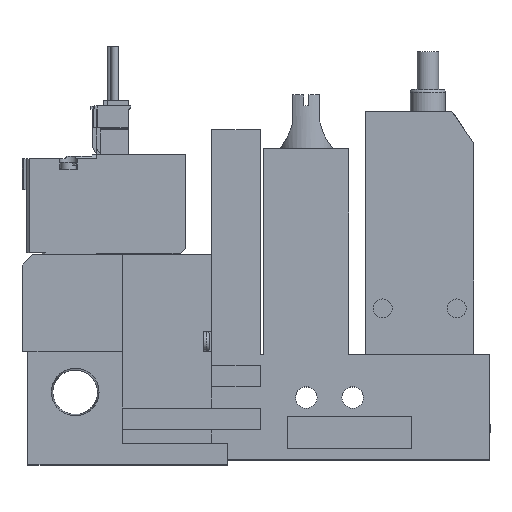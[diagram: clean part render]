
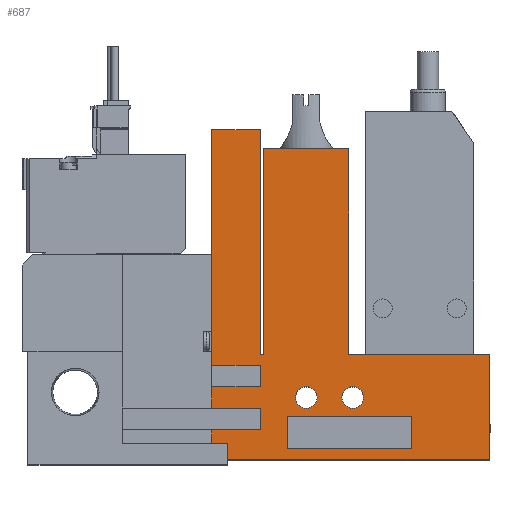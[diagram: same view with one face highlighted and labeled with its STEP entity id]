
A CAD part, top view. The second image highlights one B-rep face of the part: STEP entity #687.
In plain terms, the highlighted planar face has unit normal (0, 0, 1).
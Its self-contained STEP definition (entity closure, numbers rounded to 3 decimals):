
#687=ADVANCED_FACE('',(#1472,#1473,#1474,#1475),#1476,.T.);
#1472=FACE_OUTER_BOUND('',#2401,.T.);
#1473=FACE_BOUND('',#2402,.T.);
#1474=FACE_BOUND('',#2403,.T.);
#1475=FACE_BOUND('',#2404,.T.);
#1476=PLANE('',#2405);
#2401=EDGE_LOOP('',(#5280,#5281,#5282,#5283,#5284,#5285,#5286,#5287,#5288,#5289,#5290,#5291,#5292,#5293,#5294,#5295,#5296,#5297));
#2402=EDGE_LOOP('',(#5298,#5299,#5300,#5301));
#2403=EDGE_LOOP('',(#5302));
#2404=EDGE_LOOP('',(#5303));
#2405=AXIS2_PLACEMENT_3D('',#5304,#5305,#5306);
#5280=ORIENTED_EDGE('',*,*,#6691,.T.);
#5281=ORIENTED_EDGE('',*,*,#6835,.T.);
#5282=ORIENTED_EDGE('',*,*,#6819,.T.);
#5283=ORIENTED_EDGE('',*,*,#6719,.T.);
#5284=ORIENTED_EDGE('',*,*,#6748,.T.);
#5285=ORIENTED_EDGE('',*,*,#6836,.T.);
#5286=ORIENTED_EDGE('',*,*,#6837,.T.);
#5287=ORIENTED_EDGE('',*,*,#6838,.T.);
#5288=ORIENTED_EDGE('',*,*,#6703,.T.);
#5289=ORIENTED_EDGE('',*,*,#6734,.T.);
#5290=ORIENTED_EDGE('',*,*,#6826,.T.);
#5291=ORIENTED_EDGE('',*,*,#6758,.T.);
#5292=ORIENTED_EDGE('',*,*,#6839,.T.);
#5293=ORIENTED_EDGE('',*,*,#6840,.T.);
#5294=ORIENTED_EDGE('',*,*,#6821,.T.);
#5295=ORIENTED_EDGE('',*,*,#6793,.T.);
#5296=ORIENTED_EDGE('',*,*,#6675,.T.);
#5297=ORIENTED_EDGE('',*,*,#6725,.T.);
#5298=ORIENTED_EDGE('',*,*,#6841,.T.);
#5299=ORIENTED_EDGE('',*,*,#6744,.T.);
#5300=ORIENTED_EDGE('',*,*,#6816,.T.);
#5301=ORIENTED_EDGE('',*,*,#6713,.T.);
#5302=ORIENTED_EDGE('',*,*,#6705,.T.);
#5303=ORIENTED_EDGE('',*,*,#6750,.T.);
#5304=CARTESIAN_POINT('',(0.0,0.0,10.0));
#5305=DIRECTION('',(0.0,0.0,1.0));
#5306=DIRECTION('',(1.0,0.0,0.0));
#6675=EDGE_CURVE('',#8214,#8212,#8215,.T.);
#6691=EDGE_CURVE('',#8246,#8244,#8247,.T.);
#6703=EDGE_CURVE('',#8263,#8267,#8269,.T.);
#6705=EDGE_CURVE('',#8272,#8272,#8273,.T.);
#6713=EDGE_CURVE('',#8282,#8287,#8289,.T.);
#6719=EDGE_CURVE('',#8292,#8299,#8301,.T.);
#6725=EDGE_CURVE('',#8212,#8246,#8310,.T.);
#6734=EDGE_CURVE('',#8267,#8325,#8327,.T.);
#6744=EDGE_CURVE('',#8337,#8342,#8344,.T.);
#6748=EDGE_CURVE('',#8299,#8349,#8351,.T.);
#6750=EDGE_CURVE('',#8354,#8354,#8355,.T.);
#6758=EDGE_CURVE('',#8370,#8368,#8371,.T.);
#6793=EDGE_CURVE('',#8425,#8214,#8426,.T.);
#6816=EDGE_CURVE('',#8342,#8282,#8460,.T.);
#6819=EDGE_CURVE('',#8461,#8292,#8465,.T.);
#6821=EDGE_CURVE('',#8468,#8425,#8469,.T.);
#6826=EDGE_CURVE('',#8325,#8370,#8475,.T.);
#6835=EDGE_CURVE('',#8244,#8461,#8486,.T.);
#6836=EDGE_CURVE('',#8349,#8487,#8488,.T.);
#6837=EDGE_CURVE('',#8487,#8489,#8490,.T.);
#6838=EDGE_CURVE('',#8489,#8263,#8491,.T.);
#6839=EDGE_CURVE('',#8368,#8492,#8493,.T.);
#6840=EDGE_CURVE('',#8492,#8468,#8494,.T.);
#6841=EDGE_CURVE('',#8287,#8337,#8495,.T.);
#8212=VERTEX_POINT('',#10662);
#8214=VERTEX_POINT('',#10665);
#8215=LINE('',#10666,#10667);
#8244=VERTEX_POINT('',#10710);
#8246=VERTEX_POINT('',#10713);
#8247=LINE('',#10714,#10715);
#8263=VERTEX_POINT('',#10739);
#8267=VERTEX_POINT('',#10745);
#8269=LINE('',#10748,#10749);
#8272=VERTEX_POINT('',#10752);
#8273=CIRCLE('',#10753,2.0);
#8282=VERTEX_POINT('',#10766);
#8287=VERTEX_POINT('',#10773);
#8289=LINE('',#10776,#10777);
#8292=VERTEX_POINT('',#10780);
#8299=VERTEX_POINT('',#10790);
#8301=LINE('',#10793,#10794);
#8310=LINE('',#10808,#10809);
#8325=VERTEX_POINT('',#10831);
#8327=LINE('',#10834,#10835);
#8337=VERTEX_POINT('',#10851);
#8342=VERTEX_POINT('',#10858);
#8344=LINE('',#10861,#10862);
#8349=VERTEX_POINT('',#10868);
#8351=LINE('',#10871,#10872);
#8354=VERTEX_POINT('',#10875);
#8355=CIRCLE('',#10876,2.0);
#8368=VERTEX_POINT('',#10895);
#8370=VERTEX_POINT('',#10898);
#8371=LINE('',#10899,#10900);
#8425=VERTEX_POINT('',#11004);
#8426=LINE('',#11005,#11006);
#8460=LINE('',#11058,#11059);
#8461=VERTEX_POINT('',#11060);
#8465=LINE('',#11066,#11067);
#8468=VERTEX_POINT('',#11071);
#8469=LINE('',#11072,#11073);
#8475=LINE('',#11083,#11084);
#8486=LINE('',#11100,#11101);
#8487=VERTEX_POINT('',#11102);
#8488=LINE('',#11103,#11104);
#8489=VERTEX_POINT('',#11105);
#8490=LINE('',#11106,#11107);
#8491=LINE('',#11108,#11109);
#8492=VERTEX_POINT('',#11110);
#8493=LINE('',#11111,#11112);
#8494=LINE('',#11113,#11114);
#8495=LINE('',#11115,#11116);
#10662=CARTESIAN_POINT('',(44.1,61.0,10.0));
#10665=CARTESIAN_POINT('',(44.1,19.5,10.0));
#10666=CARTESIAN_POINT('',(44.1,19.5,10.0));
#10667=VECTOR('',#12422,1.0);
#10710=CARTESIAN_POINT('',(35.1,17.5,10.0));
#10713=CARTESIAN_POINT('',(35.1,61.0,10.0));
#10714=CARTESIAN_POINT('',(35.1,61.0,10.0));
#10715=VECTOR('',#12438,1.0);
#10739=CARTESIAN_POINT('',(35.1,5.5,10.0));
#10745=CARTESIAN_POINT('',(35.1,0.0,10.0));
#10748=CARTESIAN_POINT('',(35.1,0.0,10.0));
#10749=VECTOR('',#12450,1.0);
#10752=CARTESIAN_POINT('',(54.6,11.5,10.0));
#10753=AXIS2_PLACEMENT_3D('',#12454,#12455,#12456);
#10766=CARTESIAN_POINT('',(72.1,2.0,10.0));
#10773=CARTESIAN_POINT('',(49.1,2.0,10.0));
#10776=CARTESIAN_POINT('',(0.0,2.0,10.0));
#10777=VECTOR('',#12464,1.0);
#10780=CARTESIAN_POINT('',(44.1,13.5,10.0));
#10790=CARTESIAN_POINT('',(35.1,13.5,10.0));
#10793=CARTESIAN_POINT('',(0.0,13.5,10.0));
#10794=VECTOR('',#12472,1.0);
#10808=CARTESIAN_POINT('',(44.1,61.0,10.0));
#10809=VECTOR('',#12478,1.0);
#10831=CARTESIAN_POINT('',(86.6,0.0,10.0));
#10834=CARTESIAN_POINT('',(18.6,0.0,10.0));
#10835=VECTOR('',#12487,1.0);
#10851=CARTESIAN_POINT('',(49.1,8.0,10.0));
#10858=CARTESIAN_POINT('',(72.1,8.0,10.0));
#10861=CARTESIAN_POINT('',(0.0,8.0,10.0));
#10862=VECTOR('',#12497,1.0);
#10868=CARTESIAN_POINT('',(35.1,9.5,10.0));
#10871=CARTESIAN_POINT('',(35.1,0.0,10.0));
#10872=VECTOR('',#12503,1.0);
#10875=CARTESIAN_POINT('',(63.2,11.5,10.0));
#10876=AXIS2_PLACEMENT_3D('',#12507,#12508,#12509);
#10895=CARTESIAN_POINT('',(60.45,19.5,10.0));
#10898=CARTESIAN_POINT('',(86.6,19.5,10.0));
#10899=CARTESIAN_POINT('',(86.6,19.5,10.0));
#10900=VECTOR('',#12517,1.0);
#11004=CARTESIAN_POINT('',(44.75,19.5,10.0));
#11005=CARTESIAN_POINT('',(44.75,19.5,10.0));
#11006=VECTOR('',#12563,1.0);
#11058=CARTESIAN_POINT('',(72.1,0.0,10.0));
#11059=VECTOR('',#12594,1.0);
#11060=CARTESIAN_POINT('',(44.1,17.5,10.0));
#11066=CARTESIAN_POINT('',(44.1,0.0,10.0));
#11067=VECTOR('',#12597,1.0);
#11071=CARTESIAN_POINT('',(44.75,57.5,10.0));
#11072=CARTESIAN_POINT('',(44.75,57.5,10.0));
#11073=VECTOR('',#12599,1.0);
#11083=CARTESIAN_POINT('',(86.6,0.0,10.0));
#11084=VECTOR('',#12604,1.0);
#11100=CARTESIAN_POINT('',(0.0,17.5,10.0));
#11101=VECTOR('',#12616,1.0);
#11102=CARTESIAN_POINT('',(44.1,9.5,10.0));
#11103=CARTESIAN_POINT('',(0.0,9.5,10.0));
#11104=VECTOR('',#12617,1.0);
#11105=CARTESIAN_POINT('',(44.1,5.5,10.0));
#11106=CARTESIAN_POINT('',(44.1,0.0,10.0));
#11107=VECTOR('',#12618,1.0);
#11108=CARTESIAN_POINT('',(0.0,5.5,10.0));
#11109=VECTOR('',#12619,1.0);
#11110=CARTESIAN_POINT('',(60.45,57.5,10.0));
#11111=CARTESIAN_POINT('',(60.45,19.5,10.0));
#11112=VECTOR('',#12620,1.0);
#11113=CARTESIAN_POINT('',(60.45,57.5,10.0));
#11114=VECTOR('',#12621,1.0);
#11115=CARTESIAN_POINT('',(49.1,0.0,10.0));
#11116=VECTOR('',#12622,1.0);
#12422=DIRECTION('',(0.0,1.0,0.0));
#12438=DIRECTION('',(0.0,-1.0,0.0));
#12450=DIRECTION('',(0.0,-1.0,0.0));
#12454=CARTESIAN_POINT('',(52.6,11.5,10.0));
#12455=DIRECTION('',(0.0,0.0,-1.0));
#12456=DIRECTION('',(1.0,0.0,0.0));
#12464=DIRECTION('',(-1.0,0.0,0.0));
#12472=DIRECTION('',(-1.0,0.0,0.0));
#12478=DIRECTION('',(-1.0,0.0,0.0));
#12487=DIRECTION('',(1.0,0.0,0.0));
#12497=DIRECTION('',(1.0,0.0,0.0));
#12503=DIRECTION('',(0.0,-1.0,0.0));
#12507=CARTESIAN_POINT('',(61.2,11.5,10.0));
#12508=DIRECTION('',(0.0,0.0,-1.0));
#12509=DIRECTION('',(1.0,0.0,0.0));
#12517=DIRECTION('',(-1.0,0.0,0.0));
#12563=DIRECTION('',(-1.0,0.0,0.0));
#12594=DIRECTION('',(0.0,-1.0,0.0));
#12597=DIRECTION('',(0.0,-1.0,0.0));
#12599=DIRECTION('',(0.0,-1.0,0.0));
#12604=DIRECTION('',(0.0,1.0,0.0));
#12616=DIRECTION('',(1.0,0.0,0.0));
#12617=DIRECTION('',(1.0,0.0,0.0));
#12618=DIRECTION('',(0.0,-1.0,0.0));
#12619=DIRECTION('',(-1.0,0.0,0.0));
#12620=DIRECTION('',(0.0,1.0,0.0));
#12621=DIRECTION('',(-1.0,0.0,0.0));
#12622=DIRECTION('',(0.0,1.0,0.0));
